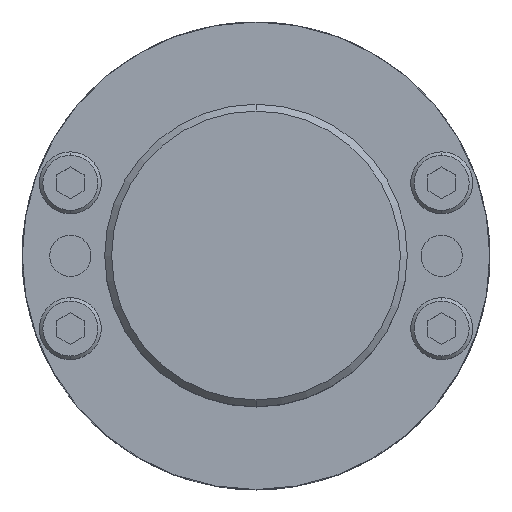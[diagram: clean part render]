
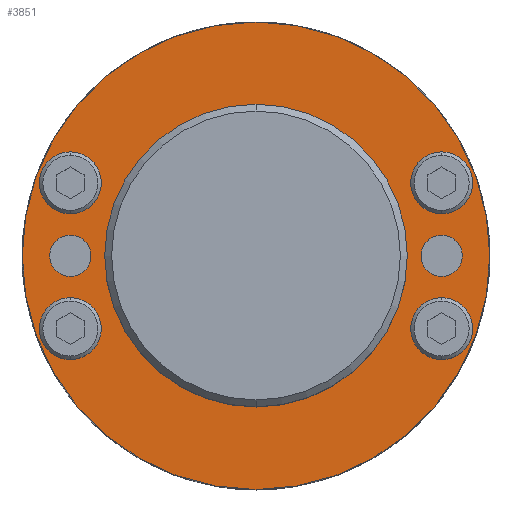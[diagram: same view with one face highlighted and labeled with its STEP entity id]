
A CAD part, top view. The second image highlights one B-rep face of the part: STEP entity #3851.
In plain terms, the highlighted planar face has unit normal (0, 0, 1).
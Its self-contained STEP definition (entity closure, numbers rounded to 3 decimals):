
#1739=CARTESIAN_POINT('',(0.,-11.0,9.));
#1740=VERTEX_POINT('',#1739);
#1749=CARTESIAN_POINT('',(0.,11.0,9.));
#1750=VERTEX_POINT('',#1749);
#1751=CARTESIAN_POINT('',(0.,0.,9.0));
#1752=DIRECTION('',(0.0,0.0,-1.0));
#1753=DIRECTION('',(0.0,-1.0,0.0));
#1754=AXIS2_PLACEMENT_3D('',#1751,#1752,#1753);
#1755=CIRCLE('',#1754,11.0);
#1756=EDGE_CURVE('',#1750,#1740,#1755,.T.);
#1813=CARTESIAN_POINT('',(13.5,3.05,9.0));
#1814=VERTEX_POINT('',#1813);
#1823=CARTESIAN_POINT('',(13.5,7.55,9.0));
#1824=VERTEX_POINT('',#1823);
#1825=CARTESIAN_POINT('',(13.5,5.3,9.0));
#1826=DIRECTION('',(0.0,0.0,-1.0));
#1827=DIRECTION('',(0.0,-1.0,0.0));
#1828=AXIS2_PLACEMENT_3D('',#1825,#1826,#1827);
#1829=CIRCLE('',#1828,2.25);
#1830=EDGE_CURVE('',#1824,#1814,#1829,.T.);
#1887=CARTESIAN_POINT('',(13.5,-7.55,9.0));
#1888=VERTEX_POINT('',#1887);
#1897=CARTESIAN_POINT('',(13.5,-3.05,9.0));
#1898=VERTEX_POINT('',#1897);
#1899=CARTESIAN_POINT('',(13.5,-5.3,9.0));
#1900=DIRECTION('',(0.0,0.0,-1.0));
#1901=DIRECTION('',(0.0,-1.0,0.0));
#1902=AXIS2_PLACEMENT_3D('',#1899,#1900,#1901);
#1903=CIRCLE('',#1902,2.25);
#1904=EDGE_CURVE('',#1898,#1888,#1903,.T.);
#1961=CARTESIAN_POINT('',(-13.5,3.05,9.0));
#1962=VERTEX_POINT('',#1961);
#1971=CARTESIAN_POINT('',(-13.5,7.55,9.0));
#1972=VERTEX_POINT('',#1971);
#1973=CARTESIAN_POINT('',(-13.5,5.3,9.0));
#1974=DIRECTION('',(0.0,0.0,-1.0));
#1975=DIRECTION('',(0.0,-1.0,0.0));
#1976=AXIS2_PLACEMENT_3D('',#1973,#1974,#1975);
#1977=CIRCLE('',#1976,2.25);
#1978=EDGE_CURVE('',#1972,#1962,#1977,.T.);
#2035=CARTESIAN_POINT('',(-13.5,-7.55,9.0));
#2036=VERTEX_POINT('',#2035);
#2045=CARTESIAN_POINT('',(-13.5,-3.05,9.0));
#2046=VERTEX_POINT('',#2045);
#2047=CARTESIAN_POINT('',(-13.5,-5.3,9.0));
#2048=DIRECTION('',(0.0,0.0,-1.0));
#2049=DIRECTION('',(0.0,-1.0,0.0));
#2050=AXIS2_PLACEMENT_3D('',#2047,#2048,#2049);
#2051=CIRCLE('',#2050,2.25);
#2052=EDGE_CURVE('',#2046,#2036,#2051,.T.);
#2111=CARTESIAN_POINT('',(0.,-17.0,9.));
#2112=VERTEX_POINT('',#2111);
#2178=CARTESIAN_POINT('',(0.,17.0,9.0));
#2179=VERTEX_POINT('',#2178);
#2186=CARTESIAN_POINT('',(0.,0.,9.0));
#2187=DIRECTION('',(0.0,0.0,-1.0));
#2188=DIRECTION('',(0.0,-1.0,0.0));
#2189=AXIS2_PLACEMENT_3D('',#2186,#2187,#2188);
#2190=CIRCLE('',#2189,17.0);
#2191=EDGE_CURVE('',#2179,#2112,#2190,.T.);
#2201=CARTESIAN_POINT('',(-13.5,-1.5,9.0));
#2202=VERTEX_POINT('',#2201);
#2211=CARTESIAN_POINT('',(-13.5,1.5,9.0));
#2212=VERTEX_POINT('',#2211);
#2213=CARTESIAN_POINT('',(-13.5,0.,9.0));
#2214=DIRECTION('',(0.0,0.0,-1.0));
#2215=DIRECTION('',(0.0,-1.0,0.0));
#2216=AXIS2_PLACEMENT_3D('',#2213,#2214,#2215);
#2217=CIRCLE('',#2216,1.5);
#2218=EDGE_CURVE('',#2212,#2202,#2217,.T.);
#2243=CARTESIAN_POINT('',(13.5,-1.5,9.0));
#2244=VERTEX_POINT('',#2243);
#2253=CARTESIAN_POINT('',(13.5,1.5,9.0));
#2254=VERTEX_POINT('',#2253);
#2255=CARTESIAN_POINT('',(13.5,0.,9.0));
#2256=DIRECTION('',(0.0,0.0,-1.0));
#2257=DIRECTION('',(0.0,-1.0,0.0));
#2258=AXIS2_PLACEMENT_3D('',#2255,#2256,#2257);
#2259=CIRCLE('',#2258,1.5);
#2260=EDGE_CURVE('',#2254,#2244,#2259,.T.);
#2386=CARTESIAN_POINT('',(13.5,0.,9.0));
#2387=DIRECTION('',(0.0,0.0,-1.0));
#2388=DIRECTION('',(0.0,-1.0,0.0));
#2389=AXIS2_PLACEMENT_3D('',#2386,#2387,#2388);
#2390=CIRCLE('',#2389,1.5);
#2391=EDGE_CURVE('',#2244,#2254,#2390,.T.);
#2410=CARTESIAN_POINT('',(-13.5,0.,9.0));
#2411=DIRECTION('',(0.0,0.0,-1.0));
#2412=DIRECTION('',(0.0,-1.0,0.0));
#2413=AXIS2_PLACEMENT_3D('',#2410,#2411,#2412);
#2414=CIRCLE('',#2413,1.5);
#2415=EDGE_CURVE('',#2202,#2212,#2414,.T.);
#2583=CARTESIAN_POINT('',(0.,0.,9.0));
#2584=DIRECTION('',(0.0,0.0,-1.0));
#2585=DIRECTION('',(0.0,-1.0,0.0));
#2586=AXIS2_PLACEMENT_3D('',#2583,#2584,#2585);
#2587=CIRCLE('',#2586,17.0);
#2588=EDGE_CURVE('',#2112,#2179,#2587,.T.);
#2684=CARTESIAN_POINT('',(-13.5,-5.3,9.0));
#2685=DIRECTION('',(0.0,0.0,-1.0));
#2686=DIRECTION('',(0.0,-1.0,0.0));
#2687=AXIS2_PLACEMENT_3D('',#2684,#2685,#2686);
#2688=CIRCLE('',#2687,2.25);
#2689=EDGE_CURVE('',#2036,#2046,#2688,.T.);
#2786=CARTESIAN_POINT('',(-13.5,5.3,9.0));
#2787=DIRECTION('',(0.0,0.0,-1.0));
#2788=DIRECTION('',(0.0,-1.0,0.0));
#2789=AXIS2_PLACEMENT_3D('',#2786,#2787,#2788);
#2790=CIRCLE('',#2789,2.25);
#2791=EDGE_CURVE('',#1962,#1972,#2790,.T.);
#2888=CARTESIAN_POINT('',(13.5,-5.3,9.0));
#2889=DIRECTION('',(0.0,0.0,-1.0));
#2890=DIRECTION('',(0.0,-1.0,0.0));
#2891=AXIS2_PLACEMENT_3D('',#2888,#2889,#2890);
#2892=CIRCLE('',#2891,2.25);
#2893=EDGE_CURVE('',#1888,#1898,#2892,.T.);
#2990=CARTESIAN_POINT('',(13.5,5.3,9.0));
#2991=DIRECTION('',(0.0,0.0,-1.0));
#2992=DIRECTION('',(0.0,-1.0,0.0));
#2993=AXIS2_PLACEMENT_3D('',#2990,#2991,#2992);
#2994=CIRCLE('',#2993,2.25);
#2995=EDGE_CURVE('',#1814,#1824,#2994,.T.);
#3767=CARTESIAN_POINT('',(0.,0.,9.0));
#3768=DIRECTION('',(0.0,0.0,-1.0));
#3769=DIRECTION('',(0.0,-1.0,0.0));
#3770=AXIS2_PLACEMENT_3D('',#3767,#3768,#3769);
#3771=CIRCLE('',#3770,11.0);
#3772=EDGE_CURVE('',#1740,#1750,#3771,.T.);
#3814=CARTESIAN_POINT('',(0.,-1.545,9.0));
#3815=DIRECTION('',(0.0,0.0,1.0));
#3816=DIRECTION('',(0.0,-1.0,0.0));
#3817=AXIS2_PLACEMENT_3D('',#3814,#3815,#3816);
#3818=PLANE('',#3817);
#3819=ORIENTED_EDGE('',*,*,#2588,.F.);
#3820=ORIENTED_EDGE('',*,*,#2191,.F.);
#3821=EDGE_LOOP('',(#3819,#3820));
#3822=FACE_OUTER_BOUND('',#3821,.T.);
#3823=ORIENTED_EDGE('',*,*,#2791,.T.);
#3824=ORIENTED_EDGE('',*,*,#1978,.T.);
#3825=EDGE_LOOP('',(#3823,#3824));
#3826=FACE_BOUND('',#3825,.T.);
#3827=ORIENTED_EDGE('',*,*,#2893,.T.);
#3828=ORIENTED_EDGE('',*,*,#1904,.T.);
#3829=EDGE_LOOP('',(#3827,#3828));
#3830=FACE_BOUND('',#3829,.T.);
#3831=ORIENTED_EDGE('',*,*,#2995,.T.);
#3832=ORIENTED_EDGE('',*,*,#1830,.T.);
#3833=EDGE_LOOP('',(#3831,#3832));
#3834=FACE_BOUND('',#3833,.T.);
#3835=ORIENTED_EDGE('',*,*,#2689,.T.);
#3836=ORIENTED_EDGE('',*,*,#2052,.T.);
#3837=EDGE_LOOP('',(#3835,#3836));
#3838=FACE_BOUND('',#3837,.T.);
#3839=ORIENTED_EDGE('',*,*,#2391,.T.);
#3840=ORIENTED_EDGE('',*,*,#2260,.T.);
#3841=EDGE_LOOP('',(#3839,#3840));
#3842=FACE_BOUND('',#3841,.T.);
#3843=ORIENTED_EDGE('',*,*,#2415,.T.);
#3844=ORIENTED_EDGE('',*,*,#2218,.T.);
#3845=EDGE_LOOP('',(#3843,#3844));
#3846=FACE_BOUND('',#3845,.T.);
#3847=ORIENTED_EDGE('',*,*,#1756,.T.);
#3848=ORIENTED_EDGE('',*,*,#3772,.T.);
#3849=EDGE_LOOP('',(#3847,#3848));
#3850=FACE_BOUND('',#3849,.T.);
#3851=ADVANCED_FACE('',(#3822,#3826,#3830,#3834,#3838,#3842,#3846,#3850),#3818,.T.);
